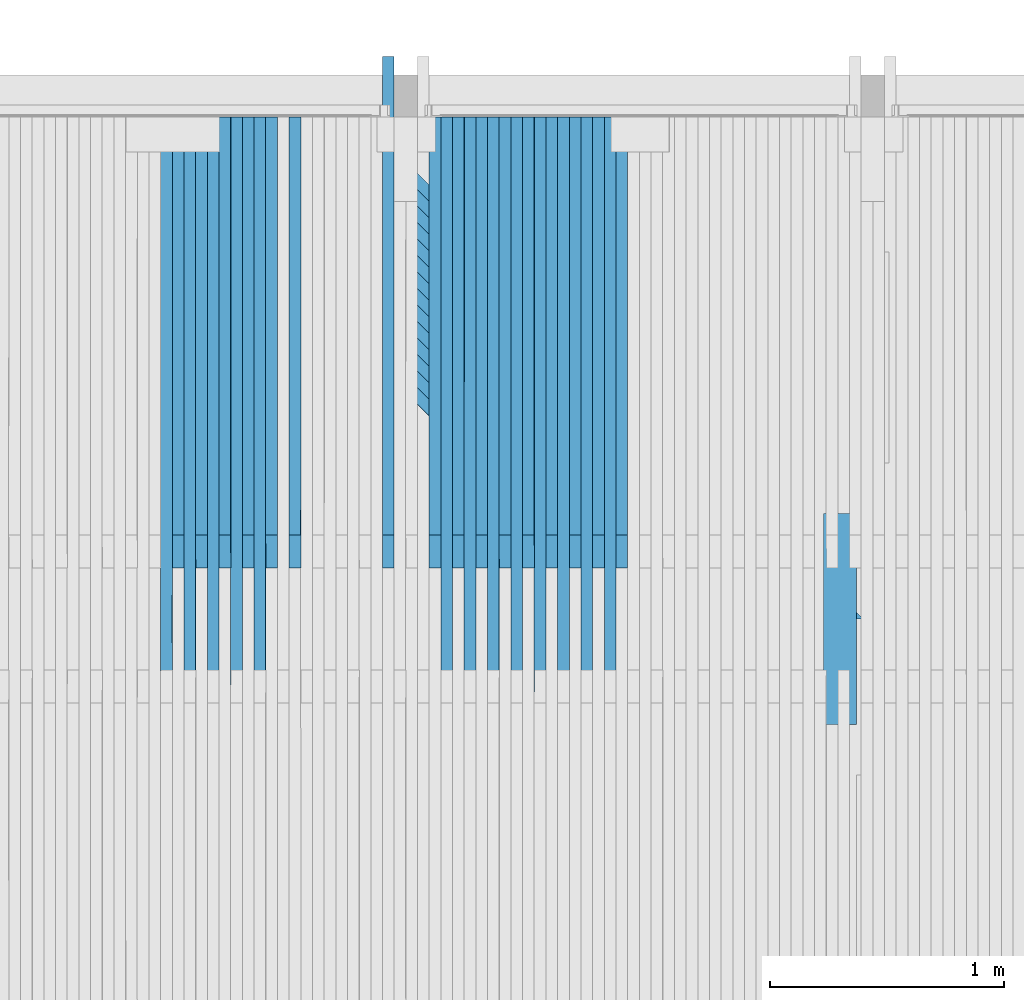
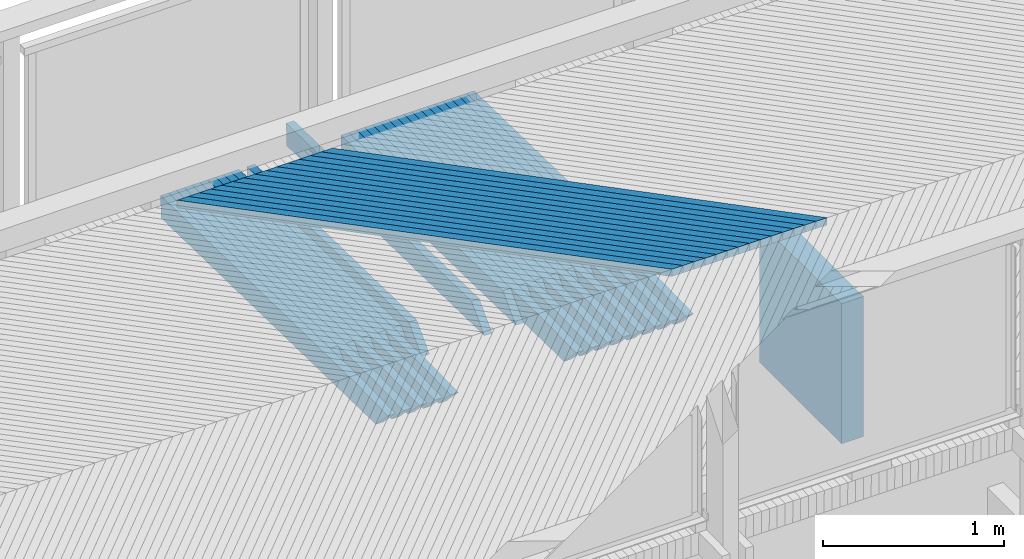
# One storey, part 26 of 65: 44 beams.
"""IFC2X3 building model written with IfcOpenShell, lengths in millimetres."""

from ifc_helpers import new_model, si_unit, frame, origin_with_axes, place, context, subcontext, project, spatial, faceted_brep, material, type_object, element, save


model = new_model("IFC2X3")

# Units and contexts
model_context = context("Model", 3, precision=1e-05, world=origin_with_axes())
body_context = subcontext(model_context, "Body", "Model", "MODEL_VIEW")
ifc_project = project(units=[si_unit("LENGTHUNIT", "METRE", prefix="MILLI"), si_unit("AREAUNIT", "SQUARE_METRE"), si_unit("VOLUMEUNIT", "CUBIC_METRE"), si_unit("MASSUNIT", "GRAM", prefix="KILO"), si_unit("TIMEUNIT", "SECOND"), si_unit("PLANEANGLEUNIT", "RADIAN"), si_unit("SOLIDANGLEUNIT", "STERADIAN"), si_unit("THERMODYNAMICTEMPERATUREUNIT", "DEGREE_CELSIUS"), si_unit("LUMINOUSINTENSITYUNIT", "LUMEN")], contexts=[model_context])

# Site, building, storey
site_placement = place(None, origin_with_axes())
site = spatial("IfcSite", under=ifc_project, at=site_placement, Name="Undefined", CompositionType="ELEMENT")
building_placement = place(site_placement, origin_with_axes())
building = spatial("IfcBuilding", under=site, at=building_placement, Name="Undefined", CompositionType="ELEMENT")
storey_placement = place(building_placement, origin_with_axes())
storey = spatial("IfcBuildingStorey", under=building, at=storey_placement, Name="Undefined", CompositionType="ELEMENT", Elevation=0.0)

# Beams
ifc_material = material(Name="TIMBER/Timber_Undefined")
beam_type_1 = type_object("IfcBeamType", Name="945*140", PredefinedType="NOTDEFINED")
beam_1_placement = place(storey_placement, frame((7860.0, 22817.5, 2542.6479002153), z_axis=(0.0, 0.0, 1.0), x_axis=(0.0, -1.0, 0.0)))
element("IfcBeam", 1, at=beam_1_placement, inside=storey, type_object=beam_type_1, material=ifc_material, Name="PALKKI", ObjectType="945*140", context=body_context, shape_type="Brep", body=[
    faceted_brep([(0.0, 70.0, -472.5), (0.0, 70.0, 472.5), (905.0, 70.0, 472.5), (905.0, 70.0, -472.5), (0.0, -70.0, 472.5), (905.0, -70.0, 472.5), (0.0, -70.0, -472.5), (905.0, -70.0, -472.5)], [[[0, 1, 2, 3]], [[1, 4, 5, 2]], [[4, 6, 7, 5]], [[6, 0, 3, 7]], [[5, 7, 3, 2]], [[6, 4, 1, 0]]]),
])
beam_type_2 = type_object("IfcBeamType", Name="50*50", PredefinedType="NOTDEFINED")
for number, where, z_axis, x_axis, name in (
    (2, (7923.63385700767, 22365.4998996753, 3236.11721724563), (0.70711609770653, 0.706981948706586, -0.0127807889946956), (-0.707094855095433, 0.706948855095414, -0.0154978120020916), "BEAM"),
    (3, (7852.9096247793, 22365.4998996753, 3236.10409357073), (0.707117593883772, 0.706981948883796, -0.0126977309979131), (-0.707093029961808, 0.706948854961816, -0.0155808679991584), "BEAM"),
    (4, (7782.18539458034, 22365.4998996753, 3236.082662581), (0.707119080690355, 0.706981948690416, -0.0126146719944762), (-0.707091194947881, 0.706948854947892, -0.0156639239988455), "BEAM"),
    (5, (7711.46116738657, 22365.4998996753, 3236.0529242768), (0.707120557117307, 0.706981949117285, -0.012531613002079), (-0.707089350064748, 0.706948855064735, -0.0157469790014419), "BEAM"),
    (6, (7640.73694417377, 22365.4998996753, 3236.01487865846), (0.707122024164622, 0.706981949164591, -0.0124485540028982), (-0.707087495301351, 0.706948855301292, -0.0158300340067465), "BEAM"),
    (7, (7570.01272591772, 22365.4998996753, 3235.96852572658), (0.707123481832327, 0.706981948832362, -0.0123654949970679), (-0.70708563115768, 0.706948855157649, -0.0159130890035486), "BEAM"),
    (8, (7499.28851359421, 22365.4998996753, 3235.91386548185), (0.707124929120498, 0.706981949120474, -0.012282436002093), (-0.707083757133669, 0.706948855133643, -0.015996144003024), "BEAM"),
    (9, (7428.56430817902, 22365.4998996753, 3235.85089792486), (0.707126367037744, 0.706981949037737, -0.0121993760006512), (-0.707081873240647, 0.706948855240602, -0.0160791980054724), "BEAM"),
    (10, (7357.84011064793, 22365.4998996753, 3235.77962305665), (0.707127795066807, 0.706981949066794, -0.0121163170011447), (-0.70707997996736, 0.706948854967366, -0.0161622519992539), "BEAM"),
    (11, (7287.11592197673, 22365.4998996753, 3235.70004087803), (0.707129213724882, 0.706981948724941, -0.0120332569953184), (-0.707078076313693, 0.706948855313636, -0.0162453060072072), "BEAM"),
    (12, (7216.39174314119, 22365.4998996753, 3235.61215139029), (0.707130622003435, 0.706981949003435, -0.0119501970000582), (-0.707076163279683, 0.706948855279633, -0.0163283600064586), "BEAM"),
    (13, (7145.6675751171, 22365.4998996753, 3235.51595459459), (0.70713202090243, 0.706981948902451, -0.0118671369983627), (-0.707074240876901, 0.706948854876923, -0.0164114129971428), "BEAM"),
    (14, (7074.94341888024, 22365.4998996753, 3235.4114504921), (0.707133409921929, 0.706981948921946, -0.0117840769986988), (-0.707072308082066, 0.706948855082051, -0.0164944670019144), "BEAM"),
    (15, (7004.2192754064, 22365.4998996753, 3235.29863908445), (0.707134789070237, 0.706981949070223, -0.0117010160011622), (-0.707070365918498, 0.706948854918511, -0.0165775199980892), "BEAM"),
):
    element("IfcBeam", number, at=place(storey_placement, frame(where, z_axis=z_axis, x_axis=x_axis)), inside=storey, type_object=beam_type_2, material=ifc_material, Name=name, ObjectType="50*50", context=body_context, shape_type="Brep", body=[
        faceted_brep([(23.5869248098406, 24.9999999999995, -24.9999999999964), (-26.4154158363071, 24.9999999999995, 24.9999999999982), (2802.92643296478, 25.0, 25.0), (2852.92877373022, 25.0000000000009, -25.0), (-25.0011704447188, -25.0, 24.9999999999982), (2804.34067830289, -25.0, 25.0000000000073), (25.0011701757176, -25.0000000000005, -24.9999999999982), (2854.34301907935, -24.9999999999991, -25.0000000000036)], [[[0, 1, 2, 3]], [[1, 4, 5, 2]], [[4, 6, 7, 5]], [[6, 0, 3, 7]], [[5, 7, 3, 2]], [[6, 4, 1, 0]]]),
    ])
beam_type_3 = type_object("IfcBeamType", Name="150*50", PredefinedType="NOTDEFINED")
beam_2_placement = place(storey_placement, frame((6875.55134106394, 24513.4953923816, 3092.09976390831), z_axis=(-0.00194896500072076, 0.0199960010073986, 0.999798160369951), x_axis=(-3.89800000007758e-05, -0.999800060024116, 0.0199959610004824)))
element("IfcBeam", 16, at=beam_2_placement, inside=storey, type_object=beam_type_3, material=ifc_material, Name="BEAM", ObjectType="150*50", context=body_context, shape_type="Brep", body=[
    faceted_brep([(-1.6778358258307e-07, -24.9999999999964, -74.9999999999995), (-1.6778358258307e-07, 25.0000000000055, -75.0), (2375.00494422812, 25.0000000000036, -75.0), (2375.00494447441, -24.9999999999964, -74.9999999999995), (1.67790858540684e-07, -24.9999999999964, 75.0000000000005), (1.67790858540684e-07, 25.0000000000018, 74.9999999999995), (2150.42515052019, 25.0000000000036, 74.9999999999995), (2510.59248715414, 25.0000000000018, 60.5875433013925), (2510.59248714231, -24.9999999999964, 60.5875430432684), (2150.42514405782, -24.9999999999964, 75.0000000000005)], [[[0, 1, 2, 3]], [[0, 4, 5, 1]], [[2, 1, 5, 6, 7]], [[3, 2, 7, 8]], [[4, 0, 3, 8, 9]], [[5, 4, 9, 6]], [[8, 7, 6, 9]]]),
])
beam_3_placement = place(storey_placement, frame((6925.57129448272, 24513.4953923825, 3092.18896139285), z_axis=(-0.0017828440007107, 0.0199960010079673, 0.999798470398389), x_axis=(-3.56580000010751e-05, -0.999800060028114, 0.0199959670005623)))
element("IfcBeam", 17, at=beam_3_placement, inside=storey, type_object=beam_type_3, material=ifc_material, Name="BEAM", ObjectType="150*50", context=body_context, shape_type="Brep", body=[
    faceted_brep([(-1.6778358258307e-07, -24.9999999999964, -74.9999999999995), (1.67790858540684e-07, -24.9999999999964, 75.0000000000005), (1.67790858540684e-07, 25.0000000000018, 74.9999999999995), (-1.6778358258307e-07, 25.0000000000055, -75.0), (1928.42646328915, 24.9999999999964, -75.0), (1928.42646353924, -25.0, -75.0000000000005), (1789.96936433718, -25.0000000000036, 74.9999999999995), (1789.96936408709, 24.9999999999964, 75.0)], [[[0, 1, 2, 3]], [[0, 3, 4, 5]], [[1, 0, 5, 6]], [[2, 1, 6, 7]], [[3, 2, 7, 4]], [[4, 7, 6, 5]]]),
])
beam_4_placement = place(storey_placement, frame((6775.53149770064, 24513.4953923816, 3091.90462133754), z_axis=(-0.0021150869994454, 0.0199960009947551, 0.999797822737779), x_axis=(-4.23030000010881e-05, -0.999800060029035, 0.0199959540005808)))
element("IfcBeam", 18, at=beam_4_placement, inside=storey, type_object=beam_type_3, material=ifc_material, Name="BEAM", ObjectType="150*50", context=body_context, shape_type="Brep", body=[
    faceted_brep([(-1.6778358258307e-07, -24.9999999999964, -74.9999999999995), (-1.6778358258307e-07, 25.0000000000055, -75.0), (2375.00494422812, 25.0000000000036, -75.0), (2375.00494447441, -24.9999999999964, -74.9999999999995), (1.67790858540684e-07, -24.9999999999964, 75.0000000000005), (1.67790858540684e-07, 25.0000000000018, 74.9999999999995), (2150.42515052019, 25.0000000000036, 74.9999999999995), (2510.59248715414, 25.0000000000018, 60.5875433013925), (2510.59248714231, -24.9999999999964, 60.5875430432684), (2150.42514405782, -24.9999999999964, 75.0000000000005)], [[[0, 1, 2, 3]], [[0, 4, 5, 1]], [[2, 1, 5, 6, 7]], [[3, 2, 7, 8]], [[4, 0, 3, 8, 9]], [[5, 4, 9, 6]], [[8, 7, 6, 9]]]),
])
beam_5_placement = place(storey_placement, frame((6825.55143560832, 24513.4953923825, 3092.0021299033), z_axis=(-0.00194896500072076, 0.0199960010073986, 0.999798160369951), x_axis=(-3.89800000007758e-05, -0.999800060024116, 0.0199959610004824)))
element("IfcBeam", 19, at=beam_5_placement, inside=storey, type_object=beam_type_3, material=ifc_material, Name="BEAM", ObjectType="150*50", context=body_context, shape_type="Brep", body=[
    faceted_brep([(-1.6778358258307e-07, -24.9999999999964, -74.9999999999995), (1.67790858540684e-07, -24.9999999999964, 75.0000000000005), (1.67790858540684e-07, 25.0000000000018, 74.9999999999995), (-1.6778358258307e-07, 25.0000000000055, -75.0), (1928.42646328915, 24.9999999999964, -75.0), (1928.42646353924, -25.0, -75.0000000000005), (1789.96936433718, -25.0000000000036, 74.9999999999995), (1789.96936408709, 24.9999999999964, 75.0)], [[[0, 1, 2, 3]], [[0, 3, 4, 5]], [[1, 0, 5, 6]], [[2, 1, 6, 7]], [[3, 2, 7, 4]], [[4, 7, 6, 5]]]),
])
beam_6_placement = place(storey_placement, frame((6675.51168814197, 24513.4953923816, 3091.6928599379), z_axis=(-0.00228120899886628, 0.019996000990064, 0.999797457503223), x_axis=(-4.5625000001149e-05, -0.99980006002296, 0.0199959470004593)))
element("IfcBeam", 20, at=beam_6_placement, inside=storey, type_object=beam_type_3, material=ifc_material, Name="BEAM", ObjectType="150*50", context=body_context, shape_type="Brep", body=[
    faceted_brep([(-1.6778358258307e-07, -24.9999999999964, -74.9999999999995), (-1.6778358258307e-07, 25.0000000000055, -75.0), (2375.00494422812, 25.0000000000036, -75.0), (2375.00494447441, -24.9999999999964, -74.9999999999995), (1.67790858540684e-07, -24.9999999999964, 75.0000000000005), (1.67790858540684e-07, 25.0000000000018, 74.9999999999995), (2150.42515052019, 25.0000000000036, 74.9999999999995), (2510.59248715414, 25.0000000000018, 60.5875433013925), (2510.59248714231, -24.9999999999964, 60.5875430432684), (2150.42514405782, -24.9999999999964, 75.0000000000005)], [[[0, 1, 2, 3]], [[0, 4, 5, 1]], [[2, 1, 5, 6, 7]], [[3, 2, 7, 8]], [[4, 0, 3, 8, 9]], [[5, 4, 9, 6]], [[8, 7, 6, 9]]]),
])
beam_7_placement = place(storey_placement, frame((6725.53160915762, 24513.4953923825, 3091.79867958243), z_axis=(-0.0021150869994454, 0.0199960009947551, 0.999797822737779), x_axis=(-4.23030000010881e-05, -0.999800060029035, 0.0199959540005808)))
element("IfcBeam", 21, at=beam_7_placement, inside=storey, type_object=beam_type_3, material=ifc_material, Name="BEAM", ObjectType="150*50", context=body_context, shape_type="Brep", body=[
    faceted_brep([(-1.6778358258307e-07, -24.9999999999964, -74.9999999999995), (1.67790858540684e-07, -24.9999999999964, 75.0000000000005), (1.67790858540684e-07, 25.0000000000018, 74.9999999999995), (-1.6778358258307e-07, 25.0000000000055, -75.0), (1928.42646328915, 24.9999999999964, -75.0), (1928.42646353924, -25.0, -75.0000000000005), (1789.96936433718, -25.0000000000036, 74.9999999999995), (1789.96936408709, 24.9999999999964, 75.0)], [[[0, 1, 2, 3]], [[0, 3, 4, 5]], [[1, 0, 5, 6]], [[2, 1, 6, 7]], [[3, 2, 7, 4]], [[4, 7, 6, 5]]]),
])
beam_8_placement = place(storey_placement, frame((6575.49191514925, 24513.4953923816, 3091.46447971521), z_axis=(-0.00244733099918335, 0.0199960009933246, 0.999797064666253), x_axis=(-4.89470000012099e-05, -0.999800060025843, 0.0199959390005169)))
element("IfcBeam", 22, at=beam_8_placement, inside=storey, type_object=beam_type_3, material=ifc_material, Name="BEAM", ObjectType="150*50", context=body_context, shape_type="Brep", body=[
    faceted_brep([(-1.6778358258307e-07, -24.9999999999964, -74.9999999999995), (-1.6778358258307e-07, 25.0000000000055, -75.0), (2375.00494422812, 25.0000000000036, -75.0), (2375.00494447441, -24.9999999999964, -74.9999999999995), (1.67790858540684e-07, -24.9999999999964, 75.0000000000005), (1.67790858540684e-07, 25.0000000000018, 74.9999999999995), (2150.42515052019, 25.0000000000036, 74.9999999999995), (2510.59248715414, 25.0000000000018, 60.5875433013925), (2510.59248714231, -24.9999999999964, 60.5875430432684), (2150.42514405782, -24.9999999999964, 75.0000000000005)], [[[0, 1, 2, 3]], [[0, 4, 5, 1]], [[2, 1, 5, 6, 7]], [[3, 2, 7, 8]], [[4, 0, 3, 8, 9]], [[5, 4, 9, 6]], [[8, 7, 6, 9]]]),
])
beam_9_placement = place(storey_placement, frame((6625.51181789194, 24513.4953923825, 3091.57861043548), z_axis=(-0.00228120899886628, 0.019996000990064, 0.999797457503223), x_axis=(-4.5625000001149e-05, -0.99980006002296, 0.0199959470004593)))
element("IfcBeam", 23, at=beam_9_placement, inside=storey, type_object=beam_type_3, material=ifc_material, Name="BEAM", ObjectType="150*50", context=body_context, shape_type="Brep", body=[
    faceted_brep([(-1.6778358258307e-07, -24.9999999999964, -74.9999999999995), (1.67790858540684e-07, -24.9999999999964, 75.0000000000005), (1.67790858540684e-07, 25.0000000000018, 74.9999999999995), (-1.6778358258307e-07, 25.0000000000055, -75.0), (1928.42646328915, 24.9999999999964, -75.0), (1928.42646353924, -25.0, -75.0000000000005), (1789.96936433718, -25.0000000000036, 74.9999999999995), (1789.96936408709, 24.9999999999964, 75.0)], [[[0, 1, 2, 3]], [[0, 3, 4, 5]], [[1, 0, 5, 6]], [[2, 1, 6, 7]], [[3, 2, 7, 4]], [[4, 7, 6, 5]]]),
])
beam_10_placement = place(storey_placement, frame((6475.47218148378, 24513.4953923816, 3091.21948067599), z_axis=(-0.00261345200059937, 0.0199960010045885, 0.999796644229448), x_axis=(-5.22700000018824e-05, -0.999800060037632, 0.0199959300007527)))
element("IfcBeam", 24, at=beam_10_placement, inside=storey, type_object=beam_type_3, material=ifc_material, Name="BEAM", ObjectType="150*50", context=body_context, shape_type="Brep", body=[
    faceted_brep([(-1.6778358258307e-07, -24.9999999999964, -74.9999999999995), (-1.6778358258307e-07, 25.0000000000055, -75.0), (2375.00494422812, 25.0000000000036, -75.0), (2375.00494447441, -24.9999999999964, -74.9999999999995), (1.67790858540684e-07, -24.9999999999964, 75.0000000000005), (1.67790858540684e-07, 25.0000000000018, 74.9999999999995), (2150.42515052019, 25.0000000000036, 74.9999999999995), (2510.59248715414, 25.0000000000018, 60.5875433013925), (2510.59248714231, -24.9999999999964, 60.5875430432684), (2150.42514405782, -24.9999999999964, 75.0000000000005)], [[[0, 1, 2, 3]], [[0, 4, 5, 1]], [[2, 1, 5, 6, 7]], [[3, 2, 7, 8]], [[4, 0, 3, 8, 9]], [[5, 4, 9, 6]], [[8, 7, 6, 9]]]),
])
beam_11_placement = place(storey_placement, frame((6525.49206457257, 24513.4953923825, 3091.34192246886), z_axis=(-0.00244733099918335, 0.0199960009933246, 0.999797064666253), x_axis=(-4.89470000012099e-05, -0.999800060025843, 0.0199959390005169)))
element("IfcBeam", 25, at=beam_11_placement, inside=storey, type_object=beam_type_3, material=ifc_material, Name="BEAM", ObjectType="150*50", context=body_context, shape_type="Brep", body=[
    faceted_brep([(-1.6778358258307e-07, -24.9999999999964, -74.9999999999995), (1.67790858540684e-07, -24.9999999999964, 75.0000000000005), (1.67790858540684e-07, 25.0000000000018, 74.9999999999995), (-1.6778358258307e-07, 25.0000000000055, -75.0), (1928.42646328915, 24.9999999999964, -75.0), (1928.42646353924, -25.0, -75.0000000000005), (1789.96936433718, -25.0000000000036, 74.9999999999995), (1789.96936408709, 24.9999999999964, 75.0)], [[[0, 1, 2, 3]], [[0, 3, 4, 5]], [[1, 0, 5, 6]], [[2, 1, 6, 7]], [[3, 2, 7, 4]], [[4, 7, 6, 5]]]),
])
beam_12_placement = place(storey_placement, frame((6375.45248990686, 24513.4953923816, 3090.957862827), z_axis=(-0.00277957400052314, 0.0199960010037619, 0.99979619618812), x_axis=(-5.55920000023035e-05, -0.999800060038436, 0.0199959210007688)))
element("IfcBeam", 26, at=beam_12_placement, inside=storey, type_object=beam_type_3, material=ifc_material, Name="BEAM", ObjectType="150*50", context=body_context, shape_type="Brep", body=[
    faceted_brep([(-1.6778358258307e-07, -24.9999999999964, -74.9999999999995), (-1.6778358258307e-07, 25.0000000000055, -75.0), (2375.00494422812, 25.0000000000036, -75.0), (2375.00494447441, -24.9999999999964, -74.9999999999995), (1.67790858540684e-07, -24.9999999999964, 75.0000000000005), (1.67790858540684e-07, 25.0000000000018, 74.9999999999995), (2150.42515052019, 25.0000000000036, 74.9999999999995), (2510.59248715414, 25.0000000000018, 60.5875433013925), (2510.59248714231, -24.9999999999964, 60.5875430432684), (2150.42514405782, -24.9999999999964, 75.0000000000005)], [[[0, 1, 2, 3]], [[0, 4, 5, 1]], [[2, 1, 5, 6, 7]], [[3, 2, 7, 8]], [[4, 0, 3, 8, 9]], [[5, 4, 9, 6]], [[8, 7, 6, 9]]]),
])
beam_13_placement = place(storey_placement, frame((6425.47235196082, 24513.4953923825, 3091.08861568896), z_axis=(-0.00261345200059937, 0.0199960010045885, 0.999796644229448), x_axis=(-5.22700000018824e-05, -0.999800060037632, 0.0199959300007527)))
element("IfcBeam", 27, at=beam_13_placement, inside=storey, type_object=beam_type_3, material=ifc_material, Name="BEAM", ObjectType="150*50", context=body_context, shape_type="Brep", body=[
    faceted_brep([(-1.6778358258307e-07, -24.9999999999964, -74.9999999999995), (1.67790858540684e-07, -24.9999999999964, 75.0000000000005), (1.67790858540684e-07, 25.0000000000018, 74.9999999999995), (-1.6778358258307e-07, 25.0000000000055, -75.0), (1928.42646328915, 24.9999999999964, -75.0), (1928.42646353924, -25.0, -75.0000000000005), (1789.96936433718, -25.0000000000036, 74.9999999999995), (1789.96936408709, 24.9999999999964, 75.0)], [[[0, 1, 2, 3]], [[0, 3, 4, 5]], [[1, 0, 5, 6]], [[2, 1, 6, 7]], [[3, 2, 7, 4]], [[4, 7, 6, 5]]]),
])
beam_14_placement = place(storey_placement, frame((6275.43284317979, 24513.4953923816, 3090.6796261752), z_axis=(-0.00294569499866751, 0.019996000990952, 0.999795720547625), x_axis=(-5.89150000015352e-05, -0.999800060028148, 0.019995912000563)))
element("IfcBeam", 28, at=beam_14_placement, inside=storey, type_object=beam_type_3, material=ifc_material, Name="BEAM", ObjectType="150*50", context=body_context, shape_type="Brep", body=[
    faceted_brep([(-1.6778358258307e-07, -24.9999999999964, -74.9999999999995), (-1.6778358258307e-07, 25.0000000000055, -75.0), (2375.00494422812, 25.0000000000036, -75.0), (2375.00494447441, -24.9999999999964, -74.9999999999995), (1.67790858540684e-07, -24.9999999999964, 75.0000000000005), (1.67790858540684e-07, 25.0000000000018, 74.9999999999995), (2150.42515052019, 25.0000000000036, 74.9999999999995), (2510.59248715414, 25.0000000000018, 60.5875433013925), (2510.59248714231, -24.9999999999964, 60.5875430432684), (2150.42514405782, -24.9999999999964, 75.0000000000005)], [[[0, 1, 2, 3]], [[0, 4, 5, 1]], [[2, 1, 5, 6, 7]], [[3, 2, 7, 8]], [[4, 0, 3, 8, 9]], [[5, 4, 9, 6]], [[8, 7, 6, 9]]]),
])
beam_15_placement = place(storey_placement, frame((6325.45268281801, 24513.4953923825, 3090.81869010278), z_axis=(-0.00277957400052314, 0.0199960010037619, 0.99979619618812), x_axis=(-5.55920000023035e-05, -0.999800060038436, 0.0199959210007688)))
element("IfcBeam", 29, at=beam_15_placement, inside=storey, type_object=beam_type_3, material=ifc_material, Name="BEAM", ObjectType="150*50", context=body_context, shape_type="Brep", body=[
    faceted_brep([(-1.6778358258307e-07, -24.9999999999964, -74.9999999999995), (1.67790858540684e-07, -24.9999999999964, 75.0000000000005), (1.67790858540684e-07, 25.0000000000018, 74.9999999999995), (-1.6778358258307e-07, 25.0000000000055, -75.0), (1928.42646328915, 24.9999999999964, -75.0), (1928.42646353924, -25.0, -75.0000000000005), (1789.96936433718, -25.0000000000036, 74.9999999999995), (1789.96936408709, 24.9999999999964, 75.0)], [[[0, 1, 2, 3]], [[0, 3, 4, 5]], [[1, 0, 5, 6]], [[2, 1, 6, 7]], [[3, 2, 7, 4]], [[4, 7, 6, 5]]]),
])
beam_16_placement = place(storey_placement, frame((6175.41324406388, 24513.4953923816, 3090.38477072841), z_axis=(-0.00311181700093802, 0.0199960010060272, 0.999795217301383), x_axis=(-6.22370000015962e-05, -0.999800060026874, 0.0199959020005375)))
element("IfcBeam", 30, at=beam_16_placement, inside=storey, type_object=beam_type_3, material=ifc_material, Name="BEAM", ObjectType="150*50", context=body_context, shape_type="Brep", body=[
    faceted_brep([(-1.6778358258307e-07, -24.9999999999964, -74.9999999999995), (-1.6778358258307e-07, 25.0000000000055, -75.0), (2375.00494422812, 25.0000000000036, -75.0), (2375.00494447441, -24.9999999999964, -74.9999999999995), (1.67790858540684e-07, -24.9999999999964, 75.0000000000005), (1.67790858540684e-07, 25.0000000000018, 74.9999999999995), (2150.42515052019, 25.0000000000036, 74.9999999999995), (2510.59248715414, 25.0000000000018, 60.5875433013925), (2510.59248714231, -24.9999999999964, 60.5875430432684), (2150.42514405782, -24.9999999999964, 75.0000000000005)], [[[0, 1, 2, 3]], [[0, 4, 5, 1]], [[2, 1, 5, 6, 7]], [[3, 2, 7, 8]], [[4, 0, 3, 8, 9]], [[5, 4, 9, 6]], [[8, 7, 6, 9]]]),
])
for number, where, z_axis, x_axis, name in (
    (31, (6225.43305990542, 24513.4953923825, 3090.53214571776), (-0.00294569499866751, 0.019996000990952, 0.999795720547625), (-5.89150000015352e-05, -0.999800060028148, 0.019995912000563), "BEAM"),
    (32, (6125.41348598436, 24513.4953923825, 3090.22898254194), (-0.00311181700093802, 0.0199960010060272, 0.999795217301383), (-6.22370000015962e-05, -0.999800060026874, 0.0199959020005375), "BEAM"),
    (33, (5525.89722570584, 24513.4953923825, 3088.06150784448), (-0.00410854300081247, 0.0199960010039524, 0.999791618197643), (-8.21720000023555e-05, -0.99980006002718, 0.0199958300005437), "BEAM"),
):
    element("IfcBeam", number, at=place(storey_placement, frame(where, z_axis=z_axis, x_axis=x_axis)), inside=storey, type_object=beam_type_3, material=ifc_material, Name=name, ObjectType="150*50", context=body_context, shape_type="Brep", body=[
        faceted_brep([(-1.6778358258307e-07, -24.9999999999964, -74.9999999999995), (1.67790858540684e-07, -24.9999999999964, 75.0000000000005), (1.67790858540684e-07, 25.0000000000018, 74.9999999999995), (-1.6778358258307e-07, 25.0000000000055, -75.0), (1928.42646328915, 24.9999999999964, -75.0), (1928.42646353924, -25.0, -75.0000000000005), (1789.96936433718, -25.0000000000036, 74.9999999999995), (1789.96936408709, 24.9999999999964, 75.0)], [[[0, 1, 2, 3]], [[0, 3, 4, 5]], [[1, 0, 5, 6]], [[2, 1, 6, 7]], [[3, 2, 7, 4]], [[4, 7, 6, 5]]]),
    ])
beam_17_placement = place(storey_placement, frame((5375.85849619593, 24513.4953923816, 3087.42824976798), z_axis=(-0.0044407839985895, 0.0199960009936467, 0.999790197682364), x_axis=(-8.88170000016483e-05, -0.999800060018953, 0.0199958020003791)))
element("IfcBeam", 34, at=beam_17_placement, inside=storey, type_object=beam_type_3, material=ifc_material, Name="BEAM", ObjectType="150*50", context=body_context, shape_type="Brep", body=[
    faceted_brep([(-1.6778358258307e-07, -24.9999999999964, -74.9999999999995), (-1.6778358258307e-07, 25.0000000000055, -75.0), (2375.00494422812, 25.0000000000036, -75.0), (2375.00494447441, -24.9999999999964, -74.9999999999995), (1.67790858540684e-07, -24.9999999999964, 75.0000000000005), (1.67790858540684e-07, 25.0000000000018, 74.9999999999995), (2150.42515052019, 25.0000000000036, 74.9999999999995), (2510.59248715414, 25.0000000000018, 60.5875433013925), (2510.59248714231, -24.9999999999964, 60.5875430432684), (2150.42514405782, -24.9999999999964, 75.0000000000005)], [[[0, 1, 2, 3]], [[0, 4, 5, 1]], [[2, 1, 5, 6, 7]], [[3, 2, 7, 8]], [[4, 0, 3, 8, 9]], [[5, 4, 9, 6]], [[8, 7, 6, 9]]]),
])
beam_18_placement = place(storey_placement, frame((5425.87807195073, 24513.4953923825, 3087.6421130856), z_axis=(-0.00427466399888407, 0.0199960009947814, 0.999790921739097), x_axis=(-8.54940000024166e-05, -0.999800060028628, 0.0199958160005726)))
element("IfcBeam", 35, at=beam_18_placement, inside=storey, type_object=beam_type_3, material=ifc_material, Name="BEAM", ObjectType="150*50", context=body_context, shape_type="Brep", body=[
    faceted_brep([(-1.6778358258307e-07, -24.9999999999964, -74.9999999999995), (1.67790858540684e-07, -24.9999999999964, 75.0000000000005), (1.67790858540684e-07, 25.0000000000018, 74.9999999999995), (-1.6778358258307e-07, 25.0000000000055, -75.0), (1928.42646328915, 24.9999999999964, -75.0), (1928.42646353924, -25.0, -75.0000000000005), (1789.96936433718, -25.0000000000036, 74.9999999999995), (1789.96936408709, 24.9999999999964, 75.0)], [[[0, 1, 2, 3]], [[0, 3, 4, 5]], [[1, 0, 5, 6]], [[2, 1, 6, 7]], [[3, 2, 7, 4]], [[4, 7, 6, 5]]]),
])
beam_19_placement = place(storey_placement, frame((5275.83944973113, 24513.4953923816, 3086.98392528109), z_axis=(-0.00460690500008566, 0.0199960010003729, 0.999789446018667), x_axis=(-9.21390000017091e-05, -0.999800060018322, 0.0199957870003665)))
element("IfcBeam", 36, at=beam_19_placement, inside=storey, type_object=beam_type_3, material=ifc_material, Name="BEAM", ObjectType="150*50", context=body_context, shape_type="Brep", body=[
    faceted_brep([(-1.6778358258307e-07, -24.9999999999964, -74.9999999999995), (-1.6778358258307e-07, 25.0000000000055, -75.0), (2375.00494422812, 25.0000000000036, -75.0), (2375.00494447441, -24.9999999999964, -74.9999999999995), (1.67790858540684e-07, -24.9999999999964, 75.0000000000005), (1.67790858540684e-07, 25.0000000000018, 74.9999999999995), (2150.42515052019, 25.0000000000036, 74.9999999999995), (2510.59248715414, 25.0000000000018, 60.5875433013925), (2510.59248714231, -24.9999999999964, 60.5875430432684), (2150.42514405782, -24.9999999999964, 75.0000000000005)], [[[0, 1, 2, 3]], [[0, 4, 5, 1]], [[2, 1, 5, 6, 7]], [[3, 2, 7, 8]], [[4, 0, 3, 8, 9]], [[5, 4, 9, 6]], [[8, 7, 6, 9]]]),
])
beam_20_placement = place(storey_placement, frame((5325.85898926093, 24513.4953923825, 3087.20609961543), z_axis=(-0.0044407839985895, 0.0199960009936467, 0.999790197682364), x_axis=(-8.88170000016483e-05, -0.999800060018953, 0.0199958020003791)))
element("IfcBeam", 37, at=beam_20_placement, inside=storey, type_object=beam_type_3, material=ifc_material, Name="BEAM", ObjectType="150*50", context=body_context, shape_type="Brep", body=[
    faceted_brep([(-1.6778358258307e-07, -24.9999999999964, -74.9999999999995), (1.67790858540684e-07, -24.9999999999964, 75.0000000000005), (1.67790858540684e-07, 25.0000000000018, 74.9999999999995), (-1.6778358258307e-07, 25.0000000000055, -75.0), (1928.42646328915, 24.9999999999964, -75.0), (1928.42646353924, -25.0, -75.0000000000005), (1789.96936433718, -25.0000000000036, 74.9999999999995), (1789.96936408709, 24.9999999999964, 75.0)], [[[0, 1, 2, 3]], [[0, 3, 4, 5]], [[1, 0, 5, 6]], [[2, 1, 6, 7]], [[3, 2, 7, 4]], [[4, 7, 6, 5]]]),
])
beam_21_placement = place(storey_placement, frame((5175.82047847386, 24513.4953923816, 3086.52298210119), z_axis=(-0.00477302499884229, 0.0199960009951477, 0.999788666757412), x_axis=(-9.54610000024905e-05, -0.999800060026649, 0.019995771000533)))
element("IfcBeam", 38, at=beam_21_placement, inside=storey, type_object=beam_type_3, material=ifc_material, Name="BEAM", ObjectType="150*50", context=body_context, shape_type="Brep", body=[
    faceted_brep([(-1.6778358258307e-07, -24.9999999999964, -74.9999999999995), (-1.6778358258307e-07, 25.0000000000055, -75.0), (2375.00494422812, 25.0000000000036, -75.0), (2375.00494447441, -24.9999999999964, -74.9999999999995), (1.67790858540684e-07, -24.9999999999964, 75.0000000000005), (1.67790858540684e-07, 25.0000000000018, 74.9999999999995), (2150.42515052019, 25.0000000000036, 74.9999999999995), (2510.59248715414, 25.0000000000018, 60.5875433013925), (2510.59248714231, -24.9999999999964, 60.5875430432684), (2150.42514405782, -24.9999999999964, 75.0000000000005)], [[[0, 1, 2, 3]], [[0, 4, 5, 1]], [[2, 1, 5, 6, 7]], [[3, 2, 7, 8]], [[4, 0, 3, 8, 9]], [[5, 4, 9, 6]], [[8, 7, 6, 9]]]),
])
beam_22_placement = place(storey_placement, frame((5225.83998039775, 24513.4953923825, 3086.75346744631), z_axis=(-0.00460690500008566, 0.0199960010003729, 0.999789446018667), x_axis=(-9.21390000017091e-05, -0.999800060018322, 0.0199957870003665)))
element("IfcBeam", 39, at=beam_22_placement, inside=storey, type_object=beam_type_3, material=ifc_material, Name="BEAM", ObjectType="150*50", context=body_context, shape_type="Brep", body=[
    faceted_brep([(-1.6778358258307e-07, -24.9999999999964, -74.9999999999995), (1.67790858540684e-07, -24.9999999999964, 75.0000000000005), (1.67790858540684e-07, 25.0000000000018, 74.9999999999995), (-1.6778358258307e-07, 25.0000000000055, -75.0), (1928.42646328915, 24.9999999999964, -75.0), (1928.42646353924, -25.0, -75.0000000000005), (1789.96936433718, -25.0000000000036, 74.9999999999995), (1789.96936408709, 24.9999999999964, 75.0)], [[[0, 1, 2, 3]], [[0, 3, 4, 5]], [[1, 0, 5, 6]], [[2, 1, 6, 7]], [[3, 2, 7, 4]], [[4, 7, 6, 5]]]),
])
beam_23_placement = place(storey_placement, frame((5075.8015851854, 24513.4953923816, 3086.04542024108), z_axis=(-0.004939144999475, 0.0199960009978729, 0.999787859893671), x_axis=(-9.87840000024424e-05, -0.999800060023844, 0.0199957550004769)))
element("IfcBeam", 40, at=beam_23_placement, inside=storey, type_object=beam_type_3, material=ifc_material, Name="BEAM", ObjectType="150*50", context=body_context, shape_type="Brep", body=[
    faceted_brep([(-1.6778358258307e-07, -24.9999999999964, -74.9999999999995), (-1.6778358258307e-07, 25.0000000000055, -75.0), (2375.00494422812, 25.0000000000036, -75.0), (2375.00494447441, -24.9999999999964, -74.9999999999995), (1.67790858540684e-07, -24.9999999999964, 75.0000000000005), (1.67790858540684e-07, 25.0000000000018, 74.9999999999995), (2150.42515052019, 25.0000000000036, 74.9999999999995), (2510.59248715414, 25.0000000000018, 60.5875433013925), (2510.59248714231, -24.9999999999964, 60.5875430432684), (2150.42514405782, -24.9999999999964, 75.0000000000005)], [[[0, 1, 2, 3]], [[0, 4, 5, 1]], [[2, 1, 5, 6, 7]], [[3, 2, 7, 8]], [[4, 0, 3, 8, 9]], [[5, 4, 9, 6]], [[8, 7, 6, 9]]]),
])
beam_24_placement = place(storey_placement, frame((5125.82104812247, 24513.4953923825, 3086.28421659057), z_axis=(-0.00477302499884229, 0.0199960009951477, 0.999788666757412), x_axis=(-9.54610000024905e-05, -0.999800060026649, 0.019995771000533)))
element("IfcBeam", 41, at=beam_24_placement, inside=storey, type_object=beam_type_3, material=ifc_material, Name="BEAM", ObjectType="150*50", context=body_context, shape_type="Brep", body=[
    faceted_brep([(-1.6778358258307e-07, -24.9999999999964, -74.9999999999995), (1.67790858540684e-07, -24.9999999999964, 75.0000000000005), (1.67790858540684e-07, 25.0000000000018, 74.9999999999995), (-1.6778358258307e-07, 25.0000000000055, -75.0), (1928.42646328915, 24.9999999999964, -75.0), (1928.42646353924, -25.0, -75.0000000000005), (1789.96936433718, -25.0000000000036, 74.9999999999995), (1789.96936408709, 24.9999999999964, 75.0)], [[[0, 1, 2, 3]], [[0, 3, 4, 5]], [[1, 0, 5, 6]], [[2, 1, 6, 7]], [[3, 2, 7, 4]], [[4, 7, 6, 5]]]),
])
beam_25_placement = place(storey_placement, frame((4975.78277262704, 24513.4953923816, 3085.55123971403), z_axis=(-0.00510526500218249, 0.0199960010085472, 0.999787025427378), x_axis=(-0.000102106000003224, -0.999800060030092, 0.0199957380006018)))
element("IfcBeam", 42, at=beam_25_placement, inside=storey, type_object=beam_type_3, material=ifc_material, Name="BEAM", ObjectType="150*50", context=body_context, shape_type="Brep", body=[
    faceted_brep([(-1.6778358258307e-07, -24.9999999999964, -74.9999999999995), (-1.6778358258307e-07, 25.0000000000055, -75.0), (2375.00494422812, 25.0000000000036, -75.0), (2375.00494447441, -24.9999999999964, -74.9999999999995), (1.67790858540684e-07, -24.9999999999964, 75.0000000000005), (1.67790858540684e-07, 25.0000000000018, 74.9999999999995), (2150.42515052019, 25.0000000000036, 74.9999999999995), (2510.59248715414, 25.0000000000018, 60.5875433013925), (2510.59248714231, -24.9999999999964, 60.5875430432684), (2150.42514405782, -24.9999999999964, 75.0000000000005)], [[[0, 1, 2, 3]], [[0, 4, 5, 1]], [[2, 1, 5, 6, 7]], [[3, 2, 7, 8]], [[4, 0, 3, 8, 9]], [[5, 4, 9, 6]], [[8, 7, 6, 9]]]),
])
beam_26_placement = place(storey_placement, frame((5025.80219519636, 24513.4953923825, 3085.79834706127), z_axis=(-0.004939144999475, 0.0199960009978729, 0.999787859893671), x_axis=(-9.87840000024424e-05, -0.999800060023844, 0.0199957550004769)))
element("IfcBeam", 43, at=beam_26_placement, inside=storey, type_object=beam_type_3, material=ifc_material, Name="BEAM", ObjectType="150*50", context=body_context, shape_type="Brep", body=[
    faceted_brep([(-1.6778358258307e-07, -24.9999999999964, -74.9999999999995), (1.67790858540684e-07, -24.9999999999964, 75.0000000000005), (1.67790858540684e-07, 25.0000000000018, 74.9999999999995), (-1.6778358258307e-07, 25.0000000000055, -75.0), (1928.42646328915, 24.9999999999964, -75.0), (1928.42646353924, -25.0, -75.0000000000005), (1789.96936433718, -25.0000000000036, 74.9999999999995), (1789.96936408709, 24.9999999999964, 75.0)], [[[0, 1, 2, 3]], [[0, 3, 4, 5]], [[1, 0, 5, 6]], [[2, 1, 6, 7]], [[3, 2, 7, 4]], [[4, 7, 6, 5]]]),
])
beam_27_placement = place(storey_placement, frame((5925.27622607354, 24771.443807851, 3084.41294017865), z_axis=(-0.00344405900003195, 0.0199960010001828, 0.999794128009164), x_axis=(-6.88820000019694e-05, -0.99980006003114, 0.0199958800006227)))
element("IfcBeam", 44, at=beam_27_placement, inside=storey, type_object=beam_type_3, material=ifc_material, Name="BEAM", ObjectType="150*50", context=body_context, shape_type="Brep", body=[
    faceted_brep([(-1.6778358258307e-07, -24.9999999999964, -74.9999999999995), (1.67790858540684e-07, -24.9999999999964, 75.0000000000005), (1.67790858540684e-07, 25.0000000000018, 74.9999999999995), (-1.6778358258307e-07, 25.0000000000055, -75.0), (2186.42646676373, 24.9999999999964, -74.9999999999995), (2186.42645144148, -25.0000000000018, -75.0), (2047.96935255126, -25.0000000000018, 75.0000000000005), (2047.9693678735, 24.9999999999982, 75.0)], [[[0, 1, 2, 3]], [[0, 3, 4, 5]], [[1, 0, 5, 6]], [[2, 1, 6, 7]], [[3, 2, 7, 4]], [[4, 7, 6, 5]]]),
])

save(model, "model.ifc")
